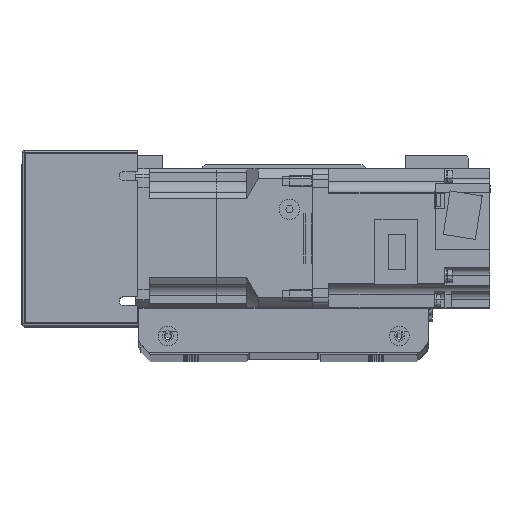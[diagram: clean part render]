
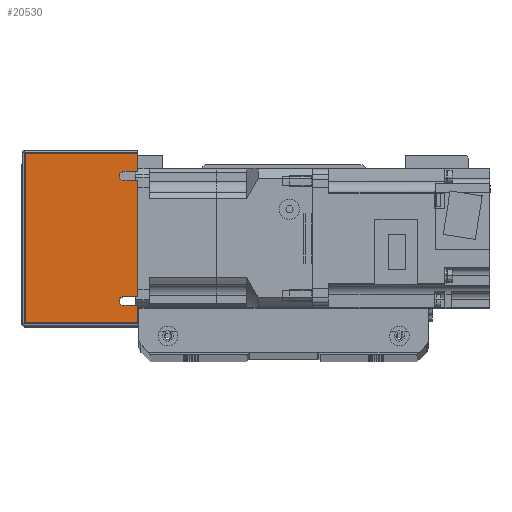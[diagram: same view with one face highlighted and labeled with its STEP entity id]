
A CAD part, top view. The second image highlights one B-rep face of the part: STEP entity #20530.
In plain terms, the highlighted planar face has unit normal (0, 0, 1) as drawn and (-1, 0, 0) by its records, which use the part's own axes.
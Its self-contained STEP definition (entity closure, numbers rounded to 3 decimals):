
#706=PLANE('',#22776);
#2036=LINE('',#34806,#3660);
#2045=LINE('',#34825,#3669);
#2052=LINE('',#34842,#3676);
#2060=LINE('',#34860,#3684);
#2073=LINE('',#34899,#3697);
#2078=LINE('',#34911,#3702);
#2082=LINE('',#34923,#3706);
#2085=LINE('',#34933,#3709);
#2086=LINE('',#34935,#3710);
#2087=LINE('',#34936,#3711);
#3660=VECTOR('',#28233,10.);
#3669=VECTOR('',#28246,10.);
#3676=VECTOR('',#28257,10.);
#3684=VECTOR('',#28269,10.);
#3697=VECTOR('',#28312,10.);
#3702=VECTOR('',#28323,10.);
#3706=VECTOR('',#28333,10.);
#3709=VECTOR('',#28344,10.);
#3710=VECTOR('',#28345,10.);
#3711=VECTOR('',#28346,10.);
#6138=FACE_OUTER_BOUND('',#7826,.T.);
#7826=EDGE_LOOP('',(#18427,#18428,#18429,#18430,#18431,#18432,#18433,#18434,
#18435,#18436,#18437,#18438));
#9010=CIRCLE('',#22754,2.);
#9015=CIRCLE('',#22762,2.);
#10743=VERTEX_POINT('',#34803);
#10744=VERTEX_POINT('',#34805);
#10750=VERTEX_POINT('',#34819);
#10752=VERTEX_POINT('',#34823);
#10759=VERTEX_POINT('',#34839);
#10760=VERTEX_POINT('',#34841);
#10767=VERTEX_POINT('',#34857);
#10768=VERTEX_POINT('',#34859);
#10779=VERTEX_POINT('',#34897);
#10788=VERTEX_POINT('',#34922);
#10791=VERTEX_POINT('',#34932);
#10792=VERTEX_POINT('',#34934);
#13338=EDGE_CURVE('',#10744,#10743,#2036,.T.);
#13347=EDGE_CURVE('',#10750,#10752,#2045,.T.);
#13354=EDGE_CURVE('',#10760,#10759,#2052,.T.);
#13362=EDGE_CURVE('',#10768,#10767,#2060,.T.);
#13368=EDGE_CURVE('',#10752,#10744,#9010,.T.);
#13379=EDGE_CURVE('',#10767,#10760,#9015,.T.);
#13384=EDGE_CURVE('',#10779,#10759,#2073,.T.);
#13391=EDGE_CURVE('',#10768,#10743,#2078,.T.);
#13397=EDGE_CURVE('',#10750,#10788,#2082,.T.);
#13402=EDGE_CURVE('',#10791,#10779,#2085,.T.);
#13403=EDGE_CURVE('',#10792,#10791,#2086,.T.);
#13404=EDGE_CURVE('',#10788,#10792,#2087,.T.);
#18427=ORIENTED_EDGE('',*,*,#13338,.T.);
#18428=ORIENTED_EDGE('',*,*,#13391,.F.);
#18429=ORIENTED_EDGE('',*,*,#13362,.T.);
#18430=ORIENTED_EDGE('',*,*,#13379,.T.);
#18431=ORIENTED_EDGE('',*,*,#13354,.T.);
#18432=ORIENTED_EDGE('',*,*,#13384,.F.);
#18433=ORIENTED_EDGE('',*,*,#13402,.F.);
#18434=ORIENTED_EDGE('',*,*,#13403,.F.);
#18435=ORIENTED_EDGE('',*,*,#13404,.F.);
#18436=ORIENTED_EDGE('',*,*,#13397,.F.);
#18437=ORIENTED_EDGE('',*,*,#13347,.T.);
#18438=ORIENTED_EDGE('',*,*,#13368,.T.);
#20530=ADVANCED_FACE('',(#6138),#706,.T.);
#22754=AXIS2_PLACEMENT_3D('',#34872,#28279,#28280);
#22762=AXIS2_PLACEMENT_3D('',#34890,#28301,#28302);
#22776=AXIS2_PLACEMENT_3D('',#34931,#28342,#28343);
#28233=DIRECTION('',(0.,0.,1.));
#28246=DIRECTION('',(0.,0.,-1.));
#28257=DIRECTION('',(0.,0.,1.));
#28269=DIRECTION('',(0.,0.,-1.));
#28279=DIRECTION('center_axis',(1.,0.,0.));
#28280=DIRECTION('ref_axis',(0.,0.,1.));
#28301=DIRECTION('center_axis',(1.,0.,0.));
#28302=DIRECTION('ref_axis',(0.,0.,1.));
#28312=DIRECTION('',(0.,-1.,0.));
#28323=DIRECTION('',(0.,-1.,0.));
#28333=DIRECTION('',(0.,-1.,0.));
#28342=DIRECTION('center_axis',(-1.,0.,0.));
#28343=DIRECTION('ref_axis',(0.,-1.,0.));
#28344=DIRECTION('',(0.,0.,1.));
#28345=DIRECTION('',(0.,1.,0.));
#28346=DIRECTION('',(0.,0.,-1.));
#34803=CARTESIAN_POINT('',(-91.,-25.,25.));
#34805=CARTESIAN_POINT('',(-91.,-25.,19.));
#34806=CARTESIAN_POINT('',(-91.,-25.,9.5));
#34819=CARTESIAN_POINT('',(-91.,-29.,25.));
#34823=CARTESIAN_POINT('',(-91.,-29.,19.));
#34825=CARTESIAN_POINT('',(-91.,-29.,15.178));
#34839=CARTESIAN_POINT('',(-91.,29.,25.));
#34841=CARTESIAN_POINT('',(-91.,29.,19.));
#34842=CARTESIAN_POINT('',(-91.,29.,9.5));
#34857=CARTESIAN_POINT('',(-91.,25.,19.));
#34859=CARTESIAN_POINT('',(-91.,25.,25.));
#34860=CARTESIAN_POINT('',(-91.,25.,15.178));
#34872=CARTESIAN_POINT('Origin',(-91.,-27.,19.));
#34890=CARTESIAN_POINT('Origin',(-91.,27.,19.));
#34897=CARTESIAN_POINT('',(-91.,37.,25.));
#34899=CARTESIAN_POINT('',(-91.,-38.,25.));
#34911=CARTESIAN_POINT('',(-91.,-38.,25.));
#34922=CARTESIAN_POINT('',(-91.,-37.,25.));
#34923=CARTESIAN_POINT('',(-91.,-38.,25.));
#34931=CARTESIAN_POINT('Origin',(-91.,38.,0.));
#34932=CARTESIAN_POINT('',(-91.,37.,-24.));
#34933=CARTESIAN_POINT('',(-91.,37.,0.));
#34934=CARTESIAN_POINT('',(-91.,-37.,-24.));
#34935=CARTESIAN_POINT('',(-91.,19.,-24.));
#34936=CARTESIAN_POINT('',(-91.,-37.,0.));
